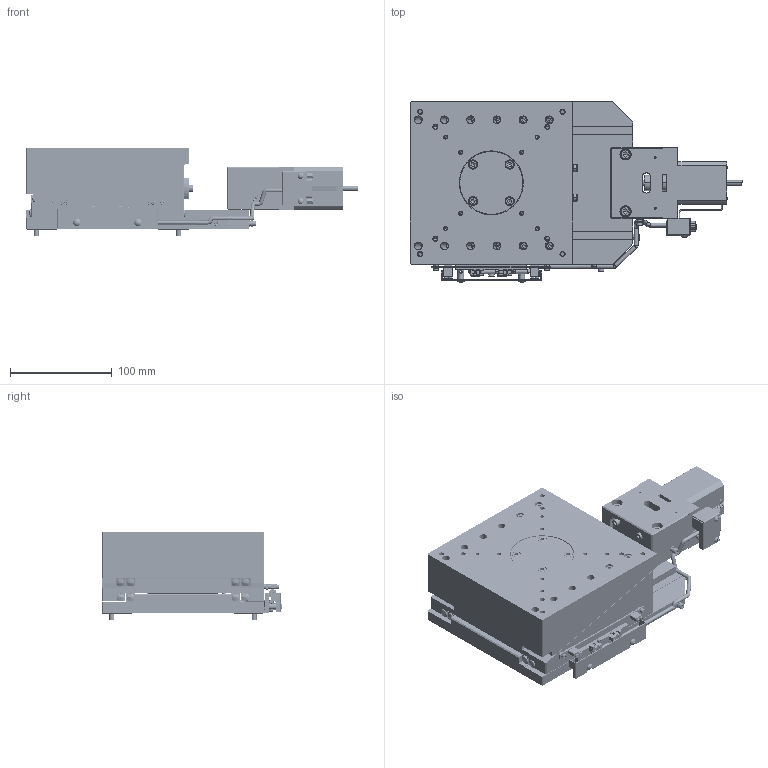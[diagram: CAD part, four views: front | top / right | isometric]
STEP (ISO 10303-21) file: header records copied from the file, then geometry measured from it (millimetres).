
FILE_DESCRIPTION( (''), '2;1');
FILE_NAME ('MVZA16A-W2C01-R.stp','2021-03-16T10:58:42',(''),(''),'spGate 15.6.6','','');
FILE_SCHEMA (('AUTOMOTIVE_DESIGN'));
Length unit declared in the file: millimetre
Products named in the file (8): Assembly; MVZA16A-W2C01-R-prt0; MVZA16A-W2C01-R-prt1; LUMP24; MVZA16A-W2C01-R-prt3; MVZA16A-W2C01-R-prt4; MVZA16A-W2C01-R-prt5; MVZA16A-W2C01-R-prt6
Assembly tree (7 placements, depth 2):
  Assembly
    MVZA16A-W2C01-R-prt0
    MVZA16A-W2C01-R-prt1
    LUMP24
    MVZA16A-W2C01-R-prt3
    MVZA16A-W2C01-R-prt4
    MVZA16A-W2C01-R-prt5
    MVZA16A-W2C01-R-prt6
Bounding box: 326.5 x 177.89 x 86 mm (x, y, z)
Volume: 2303005.8 mm3; surface area: 338516.3 mm2
Topology: 7 solids, 7 shells, 4438 faces, 10399 edges, 6154 vertices
Faces by surface type: plane 2351, cylinder 1143, bspline 905, sphere 39
Entity records: 214907 total; most frequent: CARTESIAN_POINT 35850, ORIENTED_EDGE 20254, DIRECTION 18741, COLOUR_RGB 14572, PRESENTATION_STYLE_ASSIGNMENT 14572, STYLED_ITEM 14572, EDGE_CURVE 10127, DRAUGHTING_PRE_DEFINED_CURVE_FONT 10127
